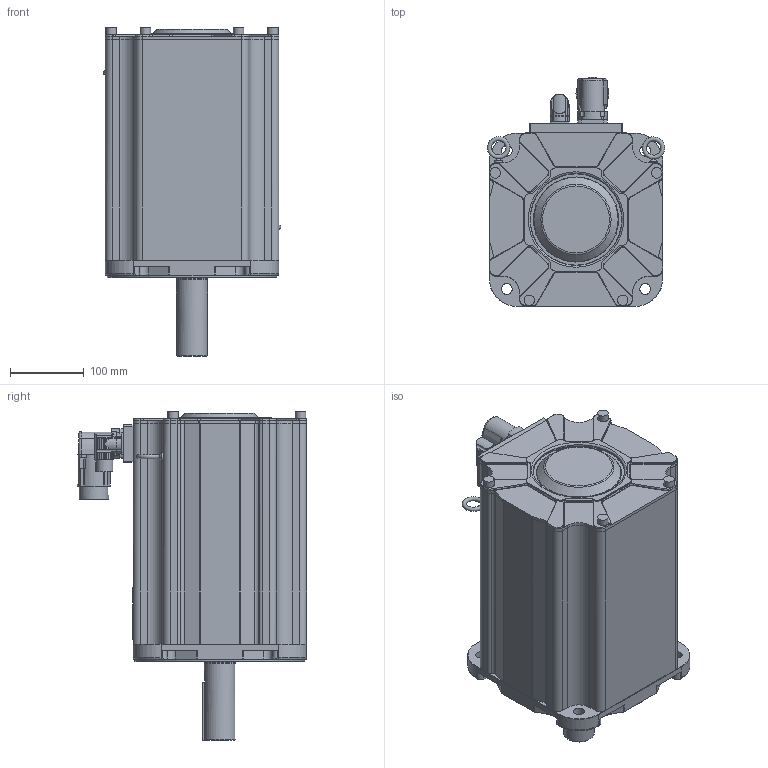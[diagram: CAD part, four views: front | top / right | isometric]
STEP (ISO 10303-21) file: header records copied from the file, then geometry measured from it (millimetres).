
FILE_DESCRIPTION((''),'2;1');
FILE_NAME('C:\CAD_work\Dummy_Modeling_Project_02-12-05\3D MODELS\MPP2308XXX_NPSN.stp','2006-02-03T10:30:18',('jevans'),(''),'Autodesk Inventor 10','Autodesk Inventor 10','');
FILE_SCHEMA(('AUTOMOTIVE_DESIGN { 1 0 10303 214 1 1 1 1 }'));
Length unit declared in the file: inch
Products named in the file (1): MPP230_MOTOR
Bounding box: 240.26 x 310.16 x 445.24 mm (x, y, z)
Volume: 15934552.8 mm3; surface area: 525352 mm2
Topology: 1 solids, 3 shells, 920 faces, 2327 edges, 1470 vertices
Faces by surface type: cylinder 392, plane 350, bspline 110, torus 52, cone 16
Full cylindrical faces by diameter (mm): 1.016 x17, 2 x2, 3.6 x4, 14.275 x4, 19.05 x1, 19.685 x1, 22.86 x1, 32.639 x1, 39.624 x1, 41.656 x1, 42.012 x1, 44.907 x1, 45.009 x1, 57.15 x1, 75.024 x1, 80.01 x1, 91.44 x1, 100 x1, 100.018 x1, 100.272 x2, 114.299 x1, 114.3 x1, 124.46 x1, 230.001 x1
Entity records: 31150 total; most frequent: CARTESIAN_POINT 9562, DIRECTION 4559, ORIENTED_EDGE 4422, EDGE_CURVE 2211, AXIS2_PLACEMENT_3D 1755, VERTEX_POINT 1435, EDGE_LOOP 1070, VECTOR 1049
